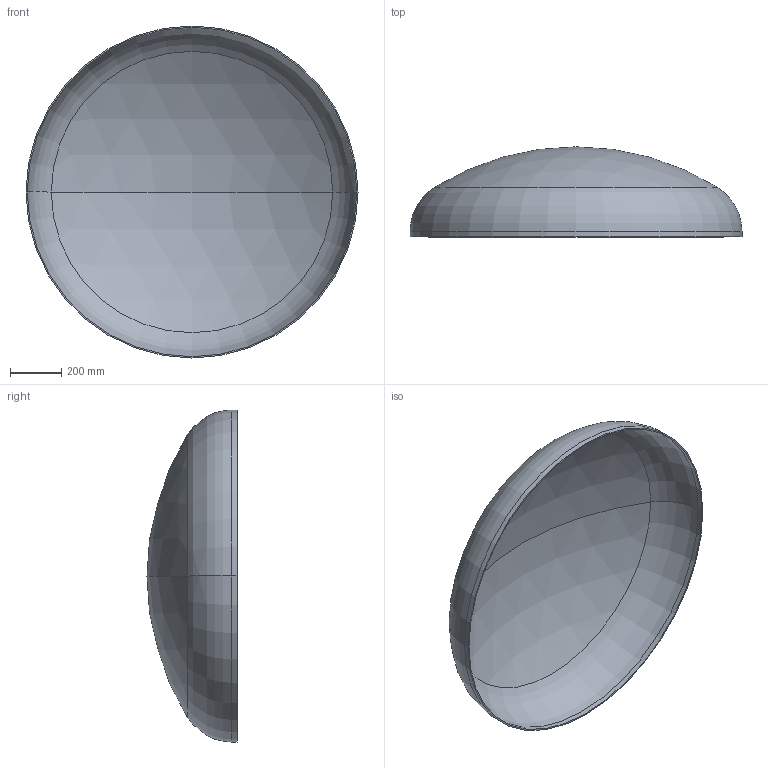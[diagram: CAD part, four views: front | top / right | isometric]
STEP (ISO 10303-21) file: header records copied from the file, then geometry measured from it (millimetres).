
FILE_DESCRIPTION (( 'STEP AP203' ), '1' );
FILE_NAME ('DIN 28013 Korbbogenform_-_Boden DIN 28013 - 1300 x 20 - I - s=5.step', '2016-07-01T09:41:14', ( '' ), ( '' ), 'SwSTEP 2.0', 'SolidWorks 2013', '' );
FILE_SCHEMA (( 'CONFIG_CONTROL_DESIGN' ));
Length unit declared in the file: millimetre
Products named in the file (1): DIN 28013 Korbbogenform_-_Boden DIN 28013 - 1300 x 20 - I - s=5
Bounding box: 1300 x 352.56 x 1300 mm (x, y, z)
Volume: 9550550.1 mm3; surface area: 3840612.7 mm2
Topology: 1 solids, 1 shells, 13 faces, 24 edges, 14 vertices
Faces by surface type: torus 4, cylinder 4, sphere 4, plane 1
Entity records: 407 total; most frequent: DIRECTION 72, CARTESIAN_POINT 52, ORIENTED_EDGE 48, AXIS2_PLACEMENT_3D 34, EDGE_CURVE 24, CIRCLE 20, EDGE_LOOP 14, VERTEX_POINT 14
